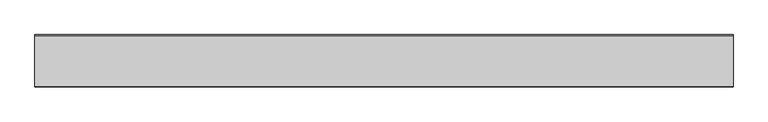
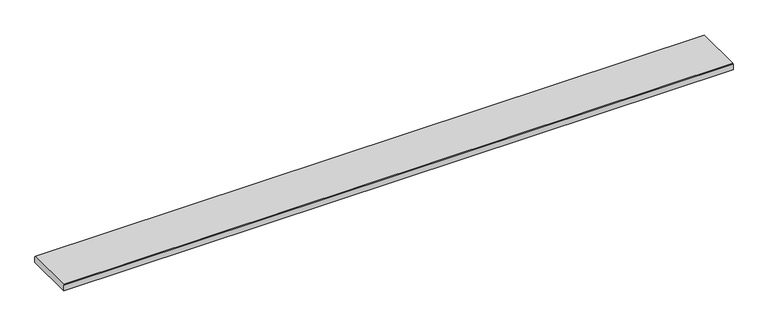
"""IFC4 building model written with IfcOpenShell, lengths in millimetres: proxy geometry."""

from ifc_helpers import new_model, si_unit, frame, origin, place, context, project, spatial, polyline, outline, extrude, source, transform, mapped, element, save


def generic_models_b4fa93c3(model_context):
    return source(origin(), model_context, "Body", "SweptSolid", [
        extrude(outline(polyline([(0.0, 20.868936), (2.245064, 23.114), (180.888936, 23.114), (183.134, 20.868936), (183.134, 0.0), (0.0, 0.0), (0.0, 20.868936)])), frame((0.0, 0.0, 0.0), z_axis=(1.0, 0.0, 0.0), x_axis=(0.0, 1.0, 0.0)), (0.0, 0.0, 1.0), 2438.4),
    ])


if __name__ == "__main__":
    model = new_model("IFC4")
    model_context = context("Model", 3, world=origin())
    ifc_project = project(units=[si_unit("LENGTHUNIT", "METRE", prefix="MILLI")], contexts=[model_context])
    site = spatial("IfcSite", under=ifc_project)
    building = spatial("IfcBuilding", under=site)
    placement = place(None, origin())
    generic_models_shape = generic_models_b4fa93c3(model_context)
    element("IfcBuildingElementProxy", 1, Name="540 Series Reversible Trim (Fiber) : 540 Series Reversible Trim (Fiber) - 7.21\"", ObjectType="540 Series Reversible Trim (Fiber) : 540 Series Reversible Trim (Fiber) - 7.21\"", at=placement, inside=building, context=model_context, shape_type="MappedRepresentation", body=[
        mapped(generic_models_shape, transform((0.0, 0.0, 0.0), x_axis=(1.0, 0.0, 0.0), y_axis=(0.0, 1.0, 0.0), z_axis=(0.0, 0.0, 1.0))),
    ])
    save(model, "model.ifc")
